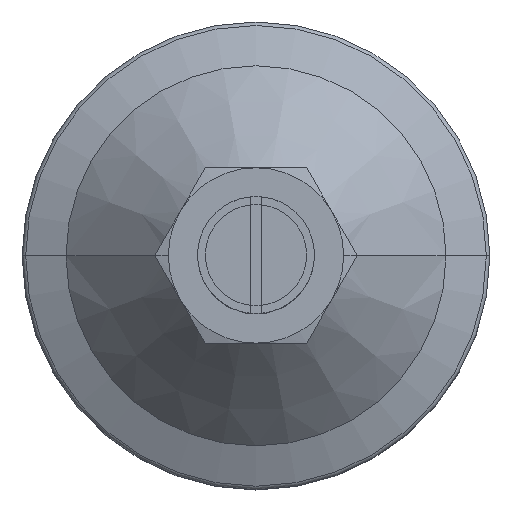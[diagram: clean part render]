
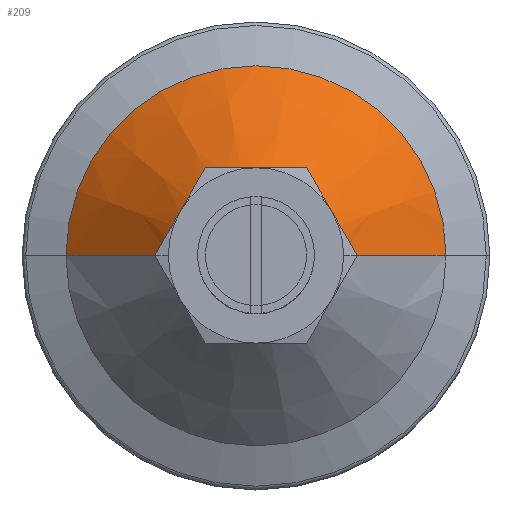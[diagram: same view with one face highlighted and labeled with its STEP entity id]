
A CAD part, top view. The second image highlights one B-rep face of the part: STEP entity #209.
In plain terms, the highlighted conical face has half-angle 44.034 degrees and reference radius 15 mm.
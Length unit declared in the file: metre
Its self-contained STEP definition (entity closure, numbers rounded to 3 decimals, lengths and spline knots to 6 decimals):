
#209=ADVANCED_FACE('125:361',(#352),#353,.T.);
#352=FACE_OUTER_BOUND('',#551,.T.);
#353=CONICAL_SURFACE('',#552,0.015,0.769);
#551=EDGE_LOOP('',(#958,#959,#960,#961));
#552=AXIS2_PLACEMENT_3D('',#962,#963,#964);
#958=ORIENTED_EDGE('',*,*,#1460,.F.);
#959=ORIENTED_EDGE('',*,*,#1461,.F.);
#960=ORIENTED_EDGE('',*,*,#1462,.F.);
#961=ORIENTED_EDGE('',*,*,#1463,.T.);
#962=CARTESIAN_POINT('',(0.0,0.0,0.12429));
#963=DIRECTION('',(-0.0,0.0,-1.0));
#964=DIRECTION('',(-1.0,0.0,0.0));
#1460=EDGE_CURVE('',#1739,#1740,#1741,.T.);
#1461=EDGE_CURVE('125:370',#1742,#1739,#1743,.T.);
#1462=EDGE_CURVE('',#1744,#1742,#1745,.T.);
#1463=EDGE_CURVE('119:21',#1744,#1740,#1746,.T.);
#1739=VERTEX_POINT('',#2353);
#1740=VERTEX_POINT('',#2354);
#1741=LINE('',#2355,#2356);
#1742=VERTEX_POINT('',#2357);
#1743=CIRCLE('',#2358,0.015);
#1744=VERTEX_POINT('',#2359);
#1745=LINE('',#2360,#2361);
#1746=CIRCLE('',#2362,0.0325);
#2353=CARTESIAN_POINT('',(-0.015,0.,0.12429));
#2354=CARTESIAN_POINT('',(-0.0325,0.,0.10619));
#2355=CARTESIAN_POINT('',(-0.015,0.,0.12429));
#2356=VECTOR('',#2899,1.0);
#2357=CARTESIAN_POINT('',(0.015,0.,0.12429));
#2358=AXIS2_PLACEMENT_3D('',#2900,#2901,#2902);
#2359=CARTESIAN_POINT('',(0.0325,0.,0.10619));
#2360=CARTESIAN_POINT('',(0.015,0.,0.12429));
#2361=VECTOR('',#2903,1.0);
#2362=AXIS2_PLACEMENT_3D('',#2904,#2905,#2906);
#2899=DIRECTION('',(-0.695,0.,-0.719));
#2900=CARTESIAN_POINT('',(0.0,0.0,0.12429));
#2901=DIRECTION('',(0.0,0.0,1.0));
#2902=DIRECTION('',(-1.0,0.0,0.0));
#2903=DIRECTION('',(-0.695,0.,0.719));
#2904=CARTESIAN_POINT('',(0.0,0.0,0.10619));
#2905=DIRECTION('',(0.0,0.0,1.0));
#2906=DIRECTION('',(1.0,0.0,0.0));
